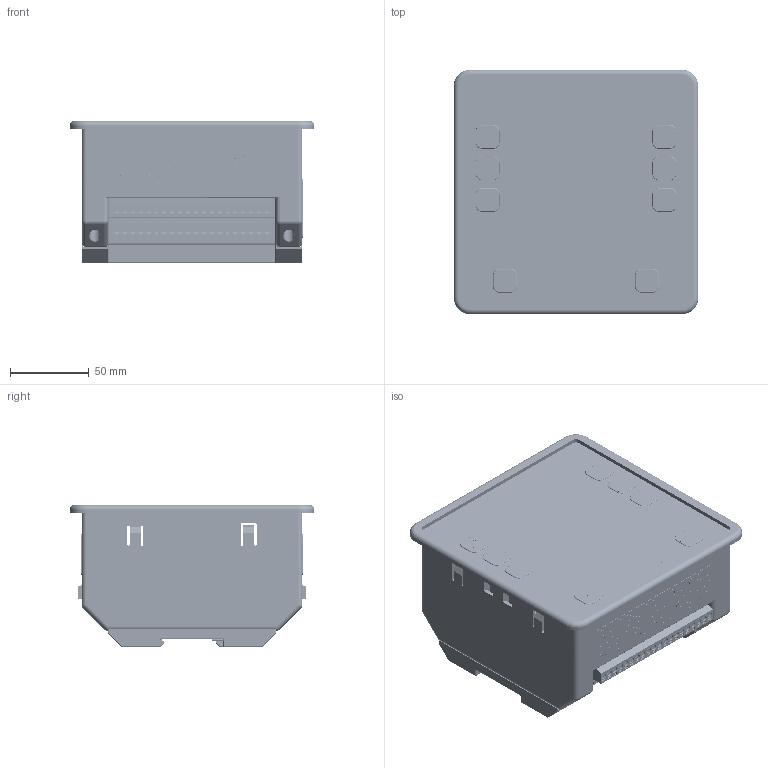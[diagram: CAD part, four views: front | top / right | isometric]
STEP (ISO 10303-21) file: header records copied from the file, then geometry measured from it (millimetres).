
FILE_DESCRIPTION (( 'STEP AP214' ), '1' );
FILE_NAME ('ﾀﾂﾐ YON AFS-243.STEP', '2021-07-28T09:49:56', ( '' ), ( '' ), 'SwSTEP 2.0', 'SolidWorks 2020', '' );
FILE_SCHEMA (( 'AUTOMOTIVE_DESIGN' ));
Length unit declared in the file: millimetre
Products named in the file (1): ﾀﾂﾐ YON AFS-243
Bounding box: 155 x 155 x 90 mm (x, y, z)
Surface area: 377731.5 mm2 (no closed solid volume)
Topology: 0 solids, 60 shells, 18047 faces, 46952 edges, 30028 vertices
Faces by surface type: plane 9347, bspline 4239, cylinder 2669, torus 882, cone 496, sphere 414
Entity records: 736453 total; most frequent: CARTESIAN_POINT 323255, ORIENTED_EDGE 93278, DIRECTION 67446, EDGE_CURVE 46661, VERTEX_POINT 30034, VECTOR 28034, LINE 28034, EDGE_LOOP 19765
